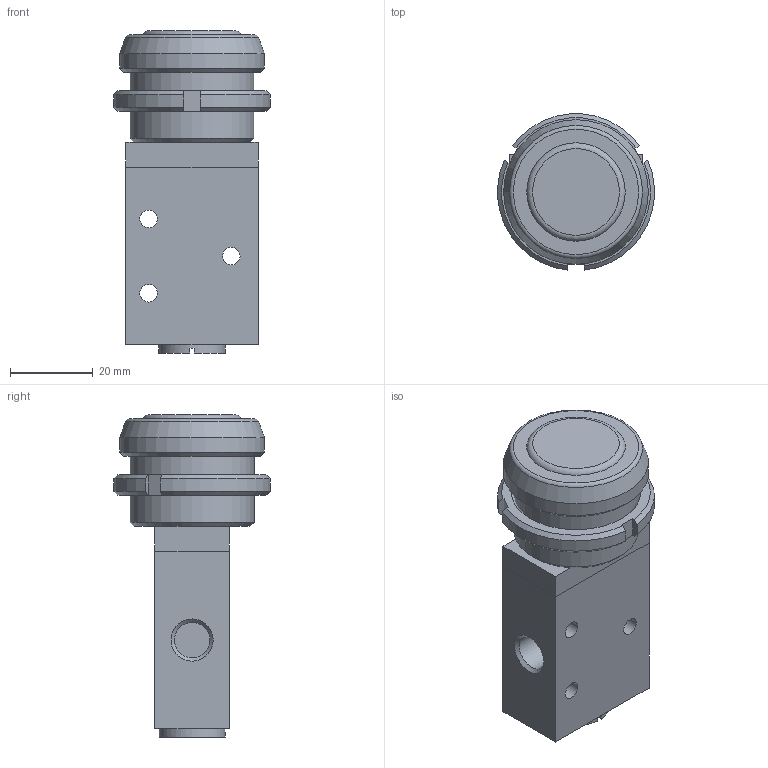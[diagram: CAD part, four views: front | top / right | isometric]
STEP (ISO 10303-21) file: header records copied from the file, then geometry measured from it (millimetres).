
FILE_DESCRIPTION((''),'2;1');
FILE_NAME('I:\Area Tecnica\Documenti\A-Roberto\_Inventor\Rev.Librerie\700\NEW\718_32_6_1-#.stp','2008-02-25T14:13:52',('rivolro1'),(''),'Autodesk Inventor 2008','Autodesk Inventor 2008','');
FILE_SCHEMA(('AUTOMOTIVE_DESIGN { 1 0 10303 214 1 1 1 1 }'));
Length unit declared in the file: millimetre
Products named in the file (3): 718_32_6_1-#; RS-105-28
Assembly tree (2 placements, depth 2):
  718_32_6_1-#
    718_32_6_1-#
    RS-105-28
Bounding box: 37.89 x 37.82 x 78 mm (x, y, z)
Volume: 49078.8 mm3; surface area: 12497.7 mm2
Topology: 2 solids, 2 shells, 65 faces, 150 edges, 96 vertices
Faces by surface type: plane 33, bspline 11, cone 10, cylinder 9, torus 2
Full cylindrical faces by diameter (mm): 4.25 x3, 16 x1, 30 x1, 35 x1
Entity records: 1958 total; most frequent: CARTESIAN_POINT 459, DIRECTION 282, ORIENTED_EDGE 254, EDGE_CURVE 127, AXIS2_PLACEMENT_3D 108, EDGE_LOOP 100, VERTEX_POINT 93, VECTOR 66
